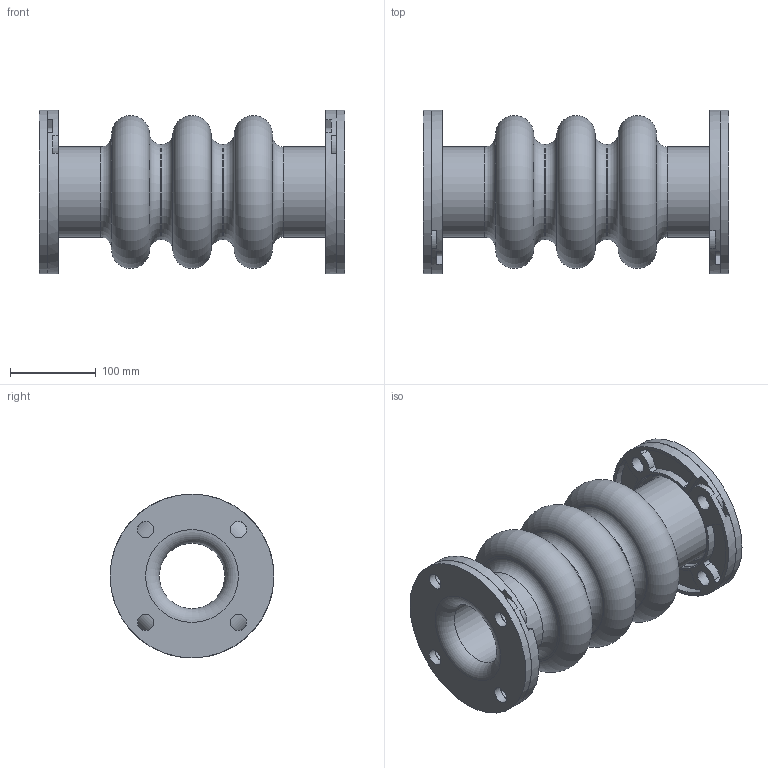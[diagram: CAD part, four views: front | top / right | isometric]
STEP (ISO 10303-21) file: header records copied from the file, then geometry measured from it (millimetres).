
FILE_DESCRIPTION(/* description */ (''),/* implementation_level */ '2;1');
FILE_NAME(/* name */ 'C:\001_Work\Designs\Mercer2014\MQInventor2014\RajR\500 Style\503\New folder\503 3IDx14FF.stp',/* time_stamp */ '2016-03-26T18:10:44-04:00',/* author */ ('rramoutar'),/* organization */ ('Mason Industries Inc.'),/* preprocessor_version */ 'ST-DEVELOPER v15.6',/* originating_system */ 'Autodesk Inventor 2015',/* authorisation */ '');
FILE_SCHEMA (('CONFIG_CONTROL_DESIGN'));
Length unit declared in the file: inch
Products named in the file (1): 503 3IDx14FF
Bounding box: 355.6 x 190.5 x 190.5 mm (x, y, z)
Volume: 3234223.8 mm3; surface area: 570488.1 mm2
Topology: 3 solids, 3 shells, 190 faces, 500 edges, 322 vertices
Faces by surface type: cylinder 102, plane 52, torus 24, cone 12
Full cylindrical faces by diameter (mm): 19.05 x16, 76.2 x4, 104.775 x2, 111.125 x2, 117.475 x2, 190.5 x4
Entity records: 6076 total; most frequent: CARTESIAN_POINT 1155, DIRECTION 1058, ORIENTED_EDGE 868, AXIS2_PLACEMENT_3D 449, EDGE_CURVE 434, VERTEX_POINT 314, EDGE_LOOP 292, CIRCLE 258
